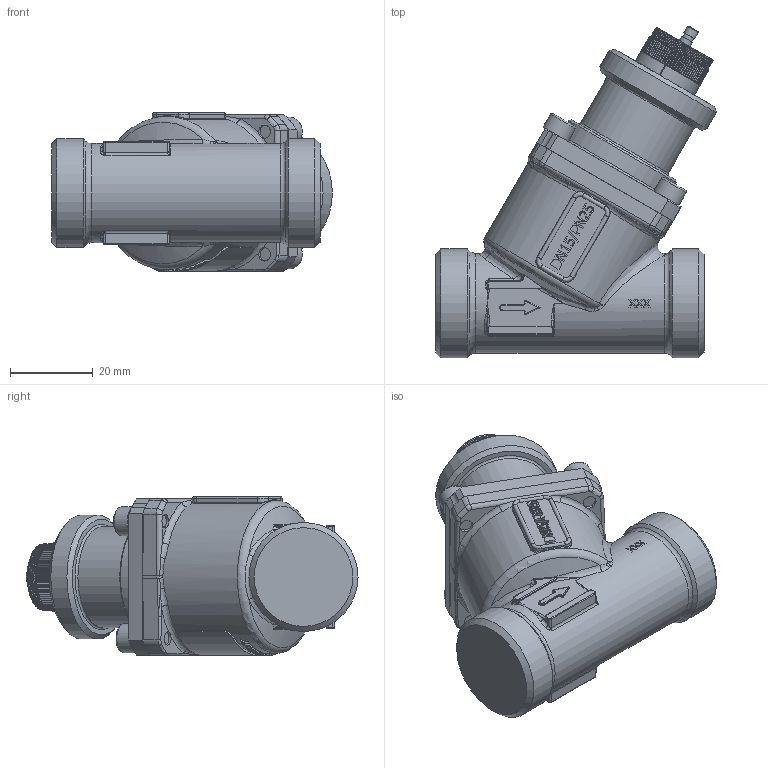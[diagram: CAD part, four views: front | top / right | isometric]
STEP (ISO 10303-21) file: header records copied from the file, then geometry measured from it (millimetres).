
FILE_DESCRIPTION((''),'2;1');
FILE_NAME('F:\Marketing\1marketing\Tegninger\Frese OPTIMA Compact\3D models\OPTIMA Compact MM DN15.stp','2012-09-05T14:50:39',('JJO'),(''),'Autodesk Inventor 2012','Autodesk Inventor 2012','');
FILE_SCHEMA(('AUTOMOTIVE_DESIGN { 1 0 10303 214 1 1 1 1 }'));
Length unit declared in the file: millimetre
Products named in the file (1): 53-1302_Shrinkwrap_1
Bounding box: 67.99 x 80.4 x 38.5 mm (x, y, z)
Surface area: 43231.5 mm2 (no closed solid volume)
Topology: 0 solids, 35 shells, 2850 faces, 7766 edges, 5018 vertices
Faces by surface type: plane 1518, bspline 580, cylinder 577, torus 118, cone 45, sphere 8, revolution 4
Full cylindrical faces by diameter (mm): 2.5 x1, 3 x3, 3.2 x2, 3.242 x4, 4 x5, 5 x1, 5.2 x1, 5.4 x2, 6 x2, 7 x4, 8 x1, 8.2 x1, 8.92 x1, 9.1 x1, 9.3 x1, 10 x2, 10.15 x1, 11 x1, 12.4 x1, 12.5 x1, 13.9 x4, 14 x1, 15 x2, 15.4 x1, 16.4 x1, 16.5 x2, 17 x1, 17.6 x1, 19 x1, 20 x1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
Entity records: 136334 total; most frequent: CARTESIAN_POINT 65184, ORIENTED_EDGE 15086, DIRECTION 12728, EDGE_CURVE 7543, VERTEX_POINT 4984, AXIS2_PLACEMENT_3D 4498, VECTOR 3728, LINE 3728
